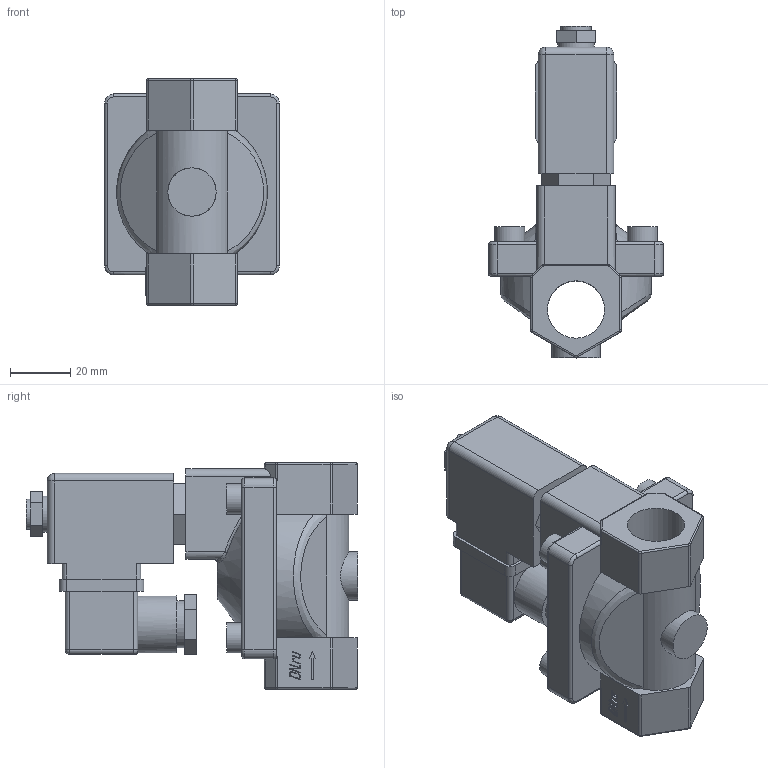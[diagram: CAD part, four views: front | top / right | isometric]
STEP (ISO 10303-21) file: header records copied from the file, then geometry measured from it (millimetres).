
FILE_DESCRIPTION(('STEP AP242'), '1');
FILE_NAME('VS431-VT-NC-24VAC 3-4 孰囡囗 尻蝠铎嚆龛蝽 DN.ru 捏20 畜16', '', ('UNSPECIFIED'), ('UNSPECIFIED'), 'C3D Converter', 'C3D Toolkit', '');
FILE_SCHEMA(('AP242_MANAGED_MODEL_BASED_3D_ENGINEERING_MIM_LF { 1 0 10303 442 1 1 4 }'));
Length unit declared in the file: millimetre
Products named in the file (1): VS431-VT-NC-24VAC 3-4
Bounding box: 58 x 110 x 75 mm (x, y, z)
Volume: 152414.2 mm3; surface area: 31651.1 mm2
Topology: 1 solids, 1 shells, 318 faces, 802 edges, 501 vertices
Faces by surface type: plane 149, cylinder 83, extrusion 40, torus 23, bspline 16, sphere 6, cone 1
Full cylindrical faces by diameter (mm): 10 x5, 12 x1, 15.5 x1, 16 x1, 19 x2
Entity records: 14204 total; most frequent: CARTESIAN_POINT 5897, ORIENTED_EDGE 1564, DIRECTION 1394, EDGE_CURVE 782, VECTOR 504, VERTEX_POINT 501, LINE 464, AXIS2_PLACEMENT_3D 445
